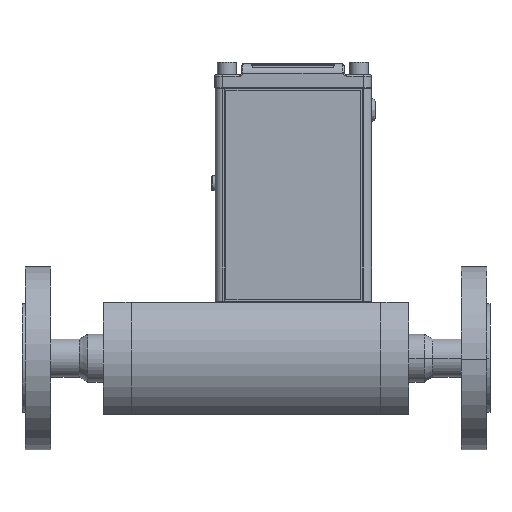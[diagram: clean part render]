
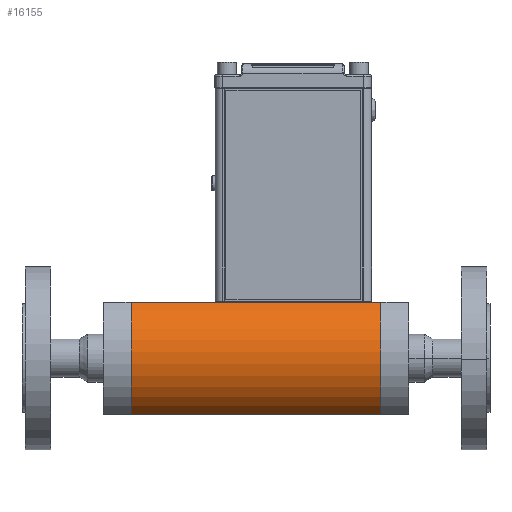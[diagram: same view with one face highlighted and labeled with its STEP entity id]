
A CAD part, front view. The second image highlights one B-rep face of the part: STEP entity #16155.
In plain terms, the highlighted cylindrical face has radius 43 mm (diameter 86 mm), a partial arc.
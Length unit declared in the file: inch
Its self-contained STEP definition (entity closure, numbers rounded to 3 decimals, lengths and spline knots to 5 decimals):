
#356 = CARTESIAN_POINT ( 'NONE',  ( -2.72824, 0.712, -0.37372 ) ) ;
#502 = FACE_OUTER_BOUND ( 'NONE', #27499, .T. ) ;
#524 = EDGE_CURVE ( 'NONE', #13149, #12617, #25314, .T. ) ;
#889 = DIRECTION ( 'NONE',  ( 1., 0., 0. ) ) ;
#2144 = ORIENTED_EDGE ( 'NONE', *, *, #20973, .F. ) ;
#2467 = DIRECTION ( 'NONE',  ( 1., 0., 0. ) ) ;
#3122 = DIRECTION ( 'NONE',  ( 0., 0., 1. ) ) ;
#4354 = ORIENTED_EDGE ( 'NONE', *, *, #19845, .F. ) ;
#4495 = VECTOR ( 'NONE', #2467, 39.37008 ) ;
#5730 = VERTEX_POINT ( 'NONE', #30165 ) ;
#7545 = DIRECTION ( 'NONE',  ( 0., 0., 1. ) ) ;
#8334 = VECTOR ( 'NONE', #11862, 39.37008 ) ;
#9352 = LINE ( 'NONE', #14389, #8334 ) ;
#10497 = CARTESIAN_POINT ( 'NONE',  ( 3.43712, 0.712, -0.37372 ) ) ;
#11862 = DIRECTION ( 'NONE',  ( -1., 0., 0. ) ) ;
#12173 = VERTEX_POINT ( 'NONE', #19141 ) ;
#12617 = VERTEX_POINT ( 'NONE', #16256 ) ;
#13149 = VERTEX_POINT ( 'NONE', #14957 ) ;
#14027 = ORIENTED_EDGE ( 'NONE', *, *, #524, .F. ) ;
#14389 = CARTESIAN_POINT ( 'NONE',  ( -2.72824, -0.26314, -1.75758 ) ) ;
#14630 = CARTESIAN_POINT ( 'NONE',  ( -2.72824, 0.712, -0.37372 ) ) ;
#14957 = CARTESIAN_POINT ( 'NONE',  ( -2.72824, -0.26314, -1.75758 ) ) ;
#16155 = ADVANCED_FACE ( 'NONE', ( #502 ), #24580, .T. ) ;
#16256 = CARTESIAN_POINT ( 'NONE',  ( -2.72824, -0.26314, 1.01014 ) ) ;
#17263 = LINE ( 'NONE', #21814, #4495 ) ;
#17264 = AXIS2_PLACEMENT_3D ( 'NONE', #10497, #889, #3122 ) ;
#17659 = DIRECTION ( 'NONE',  ( 1., 0., 0. ) ) ;
#19141 = CARTESIAN_POINT ( 'NONE',  ( 3.43712, -0.26314, -1.75758 ) ) ;
#19845 = EDGE_CURVE ( 'NONE', #5730, #12173, #23273, .T. ) ;
#20973 = EDGE_CURVE ( 'NONE', #12173, #13149, #9352, .T. ) ;
#21814 = CARTESIAN_POINT ( 'NONE',  ( -2.72824, -0.26314, 1.01014 ) ) ;
#23273 = CIRCLE ( 'NONE', #17264, 1.69291 ) ;
#24231 = DIRECTION ( 'NONE',  ( -1., 0., 0. ) ) ;
#24319 = AXIS2_PLACEMENT_3D ( 'NONE', #14630, #24231, #7545 ) ;
#24580 = CYLINDRICAL_SURFACE ( 'NONE', #26753, 1.69291 ) ;
#25314 = CIRCLE ( 'NONE', #24319, 1.69291 ) ;
#26219 = EDGE_CURVE ( 'NONE', #12617, #5730, #17263, .T. ) ;
#26753 = AXIS2_PLACEMENT_3D ( 'NONE', #356, #17659, #29020 ) ;
#27499 = EDGE_LOOP ( 'NONE', ( #4354, #29040, #14027, #2144 ) ) ;
#29020 = DIRECTION ( 'NONE',  ( 0., 0., 1. ) ) ;
#29040 = ORIENTED_EDGE ( 'NONE', *, *, #26219, .F. ) ;
#30165 = CARTESIAN_POINT ( 'NONE',  ( 3.43712, -0.26314, 1.01014 ) ) ;
